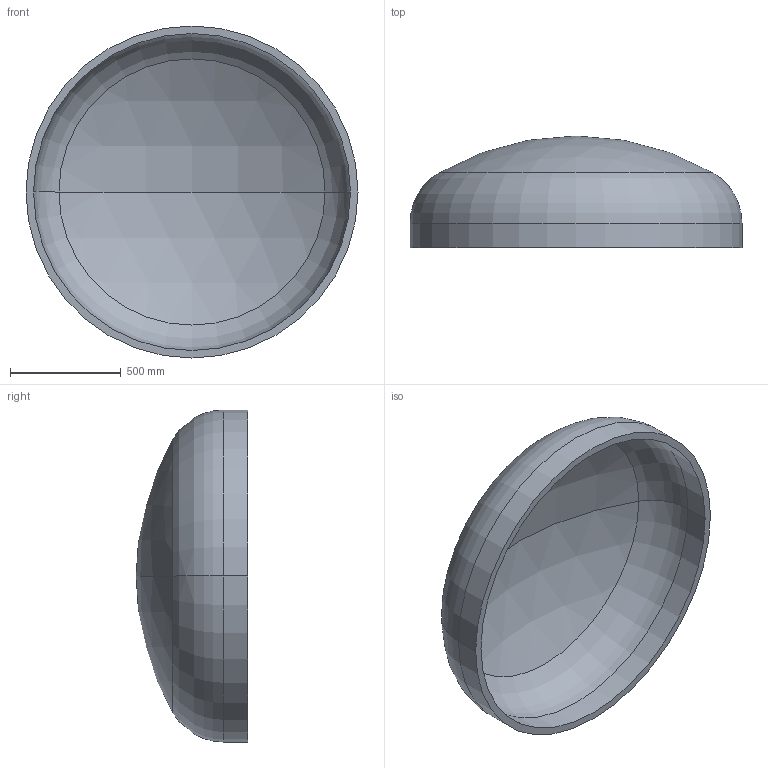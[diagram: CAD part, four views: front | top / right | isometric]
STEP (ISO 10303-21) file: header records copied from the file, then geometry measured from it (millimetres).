
FILE_DESCRIPTION (( 'STEP AP203' ), '1' );
FILE_NAME ('DIN 28013 Korbbogenform_-_Boden DIN 28013 - 1500 x 110 - I - s=34.step', '2016-07-01T10:43:37', ( '' ), ( '' ), 'SwSTEP 2.0', 'SolidWorks 2013', '' );
FILE_SCHEMA (( 'CONFIG_CONTROL_DESIGN' ));
Length unit declared in the file: millimetre
Products named in the file (1): DIN 28013 Korbbogenform_-_Boden DIN 28013 - 1500 x 110 - I - s=34
Bounding box: 1500 x 504.53 x 1500 mm (x, y, z)
Volume: 97927413.7 mm3; surface area: 5919445 mm2
Topology: 1 solids, 1 shells, 13 faces, 24 edges, 14 vertices
Faces by surface type: torus 4, cylinder 4, sphere 4, plane 1
Entity records: 407 total; most frequent: DIRECTION 72, CARTESIAN_POINT 52, ORIENTED_EDGE 48, AXIS2_PLACEMENT_3D 34, EDGE_CURVE 24, CIRCLE 20, VERTEX_POINT 14, EDGE_LOOP 14
